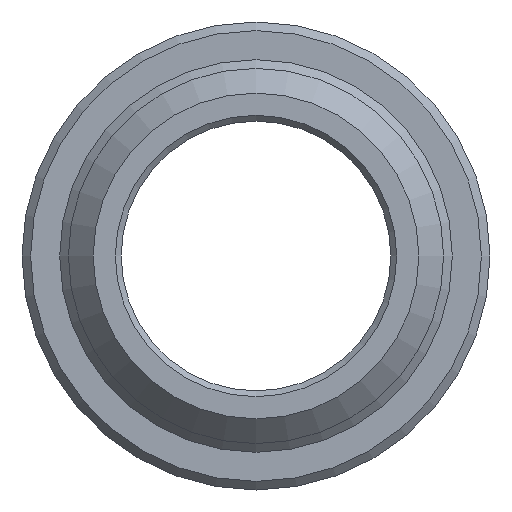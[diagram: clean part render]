
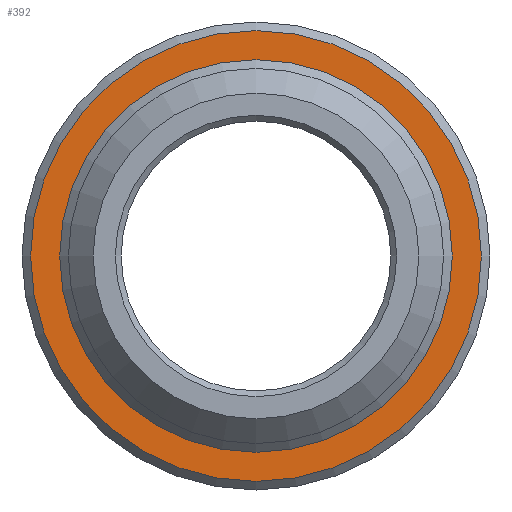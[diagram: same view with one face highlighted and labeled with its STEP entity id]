
A CAD part, front view. The second image highlights one B-rep face of the part: STEP entity #392.
In plain terms, the highlighted planar face has unit normal (0, -1, 0).
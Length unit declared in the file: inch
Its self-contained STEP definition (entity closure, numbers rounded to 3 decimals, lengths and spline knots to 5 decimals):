
#33=FACE_BOUND('',#86,.T.);
#44=PLANE('',#443);
#60=FACE_OUTER_BOUND('',#85,.T.);
#85=EDGE_LOOP('',(#316));
#86=EDGE_LOOP('',(#317));
#158=CIRCLE('',#442,0.34053);
#159=CIRCLE('',#444,0.391);
#195=VERTEX_POINT('',#678);
#196=VERTEX_POINT('',#682);
#243=EDGE_CURVE('',#195,#195,#158,.T.);
#244=EDGE_CURVE('',#196,#196,#159,.T.);
#316=ORIENTED_EDGE('',*,*,#244,.F.);
#317=ORIENTED_EDGE('',*,*,#243,.F.);
#392=ADVANCED_FACE('',(#60,#33),#44,.T.);
#442=AXIS2_PLACEMENT_3D('',#680,#536,#537);
#443=AXIS2_PLACEMENT_3D('',#681,#538,#539);
#444=AXIS2_PLACEMENT_3D('',#683,#540,#541);
#536=DIRECTION('center_axis',(0.,-1.,0.));
#537=DIRECTION('ref_axis',(0.,0.,-1.));
#538=DIRECTION('center_axis',(0.,-1.,0.));
#539=DIRECTION('ref_axis',(0.,0.,-1.));
#540=DIRECTION('center_axis',(0.,1.,0.));
#541=DIRECTION('ref_axis',(0.,0.,1.));
#678=CARTESIAN_POINT('',(0.,5.75,0.34053));
#680=CARTESIAN_POINT('Origin',(0.,5.75,0.));
#681=CARTESIAN_POINT('Origin',(0.,5.75,-0.3375));
#682=CARTESIAN_POINT('',(0.,5.75,-0.391));
#683=CARTESIAN_POINT('Origin',(0.,5.75,0.));
